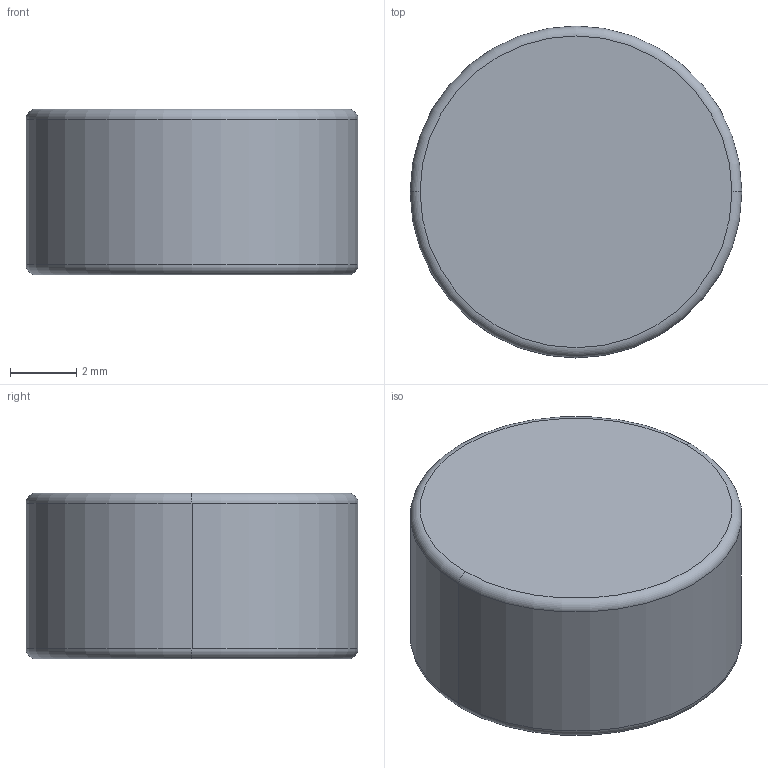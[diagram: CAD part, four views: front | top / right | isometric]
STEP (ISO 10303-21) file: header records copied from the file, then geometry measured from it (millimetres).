
FILE_DESCRIPTION (( 'STEP AP203' ), '1' );
FILE_NAME ('Magnet 10x5.STEP', '2024-12-12T09:30:14', ( '' ), ( '' ), 'SwSTEP 2.0', 'SolidWorks 2023', '' );
FILE_SCHEMA (( 'CONFIG_CONTROL_DESIGN' ));
Length unit declared in the file: millimetre
Products named in the file (1): Magnet 10x5
Bounding box: 10 x 10 x 5 mm (x, y, z)
Volume: 391.5 mm3; surface area: 306 mm2
Topology: 1 solids, 1 shells, 8 faces, 14 edges, 8 vertices
Faces by surface type: torus 4, cylinder 2, plane 2
Entity records: 275 total; most frequent: DIRECTION 44, CARTESIAN_POINT 31, ORIENTED_EDGE 28, AXIS2_PLACEMENT_3D 21, EDGE_CURVE 14, CIRCLE 12, PERSON_AND_ORGANIZATION 8, FACE_OUTER_BOUND 8
